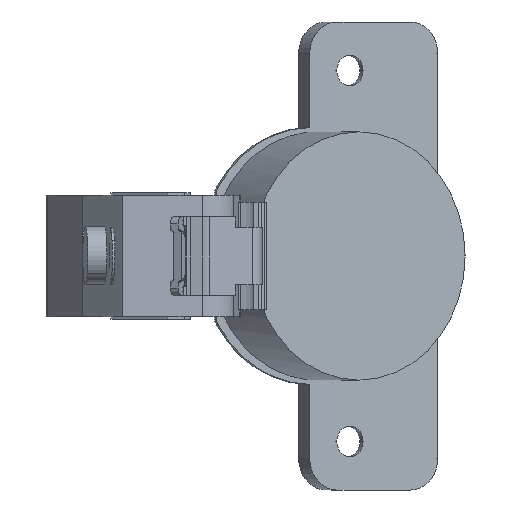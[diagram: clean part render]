
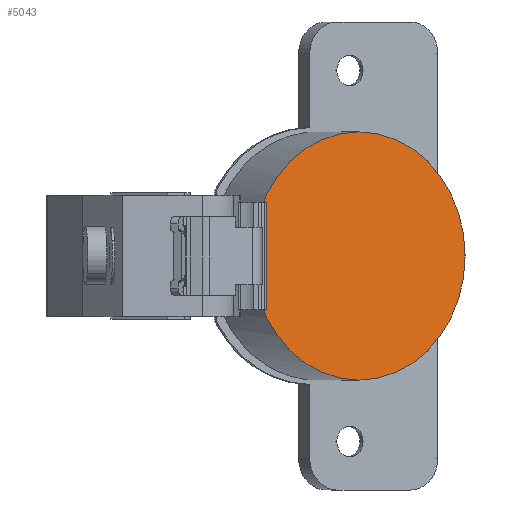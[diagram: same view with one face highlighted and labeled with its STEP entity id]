
A CAD part, left-side view. The second image highlights one B-rep face of the part: STEP entity #5043.
In plain terms, the highlighted planar face has unit normal (-0.855, -0.518, 0).
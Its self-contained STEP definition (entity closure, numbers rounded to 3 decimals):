
#363 = CARTESIAN_POINT ( 'NONE',  ( 48.775, 22.862, 0. ) ) ;
#593 = CARTESIAN_POINT ( 'NONE',  ( 57.792, 7.981, 0. ) ) ;
#810 = DIRECTION ( 'NONE',  ( -0.855, -0.518, 0. ) ) ;
#1307 = AXIS2_PLACEMENT_3D ( 'NONE', #593, #2165, #1400 ) ;
#1310 = ORIENTED_EDGE ( 'NONE', *, *, #1712, .T. ) ;
#1400 = DIRECTION ( 'NONE',  ( 0.518, -0.855, 0. ) ) ;
#1500 = CARTESIAN_POINT ( 'NONE',  ( 57.792, 7.981, 0. ) ) ;
#1514 = CARTESIAN_POINT ( 'NONE',  ( 57.792, 7.981, 0. ) ) ;
#1712 = EDGE_CURVE ( 'NONE', #2702, #7555, #5058, .T. ) ;
#2165 = DIRECTION ( 'NONE',  ( -0.855, -0.518, 0. ) ) ;
#2225 = FACE_OUTER_BOUND ( 'NONE', #3197, .T. ) ;
#2702 = VERTEX_POINT ( 'NONE', #8231 ) ;
#2996 = AXIS2_PLACEMENT_3D ( 'NONE', #1500, #8490, #4549 ) ;
#3197 = EDGE_LOOP ( 'NONE', ( #1310, #5487 ) ) ;
#4301 = AXIS2_PLACEMENT_3D ( 'NONE', #1514, #810, #4564 ) ;
#4549 = DIRECTION ( 'NONE',  ( 0.518, -0.855, 0. ) ) ;
#4564 = DIRECTION ( 'NONE',  ( 0.518, -0.855, 0. ) ) ;
#4988 = CIRCLE ( 'NONE', #1307, 17.4 ) ;
#5043 = ADVANCED_FACE ( 'NONE', ( #2225 ), #8252, .T. ) ;
#5058 = CIRCLE ( 'NONE', #2996, 17.4 ) ;
#5487 = ORIENTED_EDGE ( 'NONE', *, *, #8186, .T. ) ;
#7555 = VERTEX_POINT ( 'NONE', #363 ) ;
#8186 = EDGE_CURVE ( 'NONE', #7555, #2702, #4988, .T. ) ;
#8231 = CARTESIAN_POINT ( 'NONE',  ( 66.81, -6.9, 0. ) ) ;
#8252 = PLANE ( 'NONE',  #4301 ) ;
#8490 = DIRECTION ( 'NONE',  ( -0.855, -0.518, 0. ) ) ;
